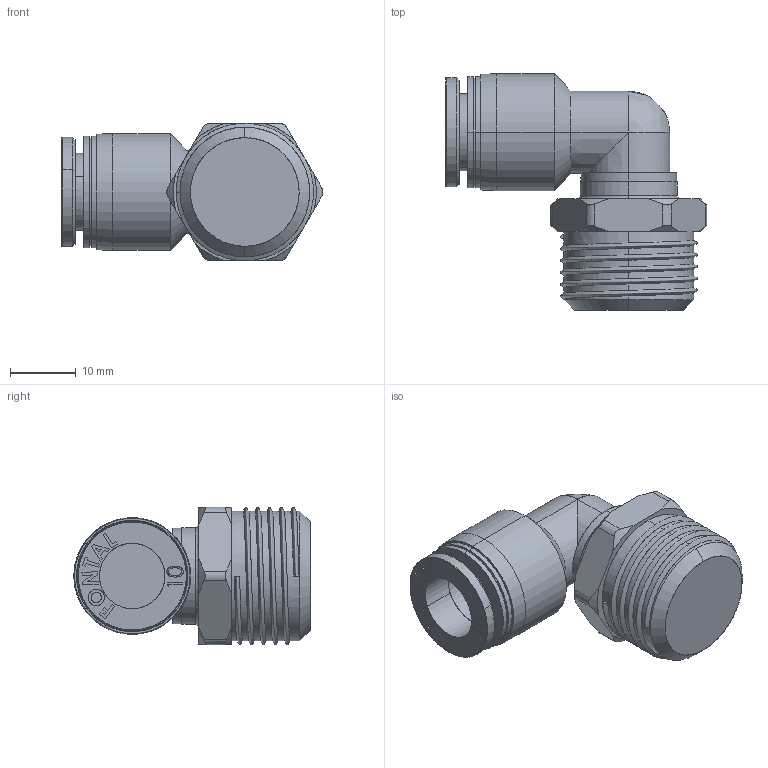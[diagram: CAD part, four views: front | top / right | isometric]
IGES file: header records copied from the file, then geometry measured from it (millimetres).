
Start section: SolidWorks IGES file using analytic representation for surfaces
Global section: file name: D:\Custom\3D繪製\ADDITIONAL\FPL\FPL10-04.IGS,1; native system: 5HSolidWorks 2014; preprocessor: SolidWorks 2014; author: Chieh_Lu; date: 160115.050228; units: millimetre
Bounding box: 39.9 x 36.1 x 21 mm (x, y, z)
Surface area: 5409.5 mm2 (no closed solid volume)
Topology: 0 solids, 0 shells, 177 faces, 2468 edges, 2467 vertices
Faces by surface type: bspline 111, revolution 66
